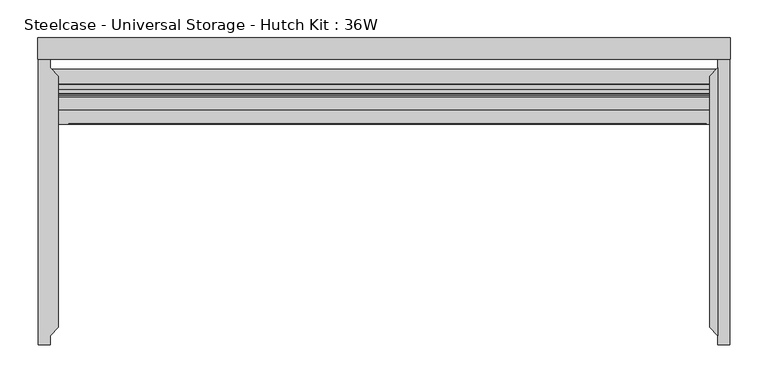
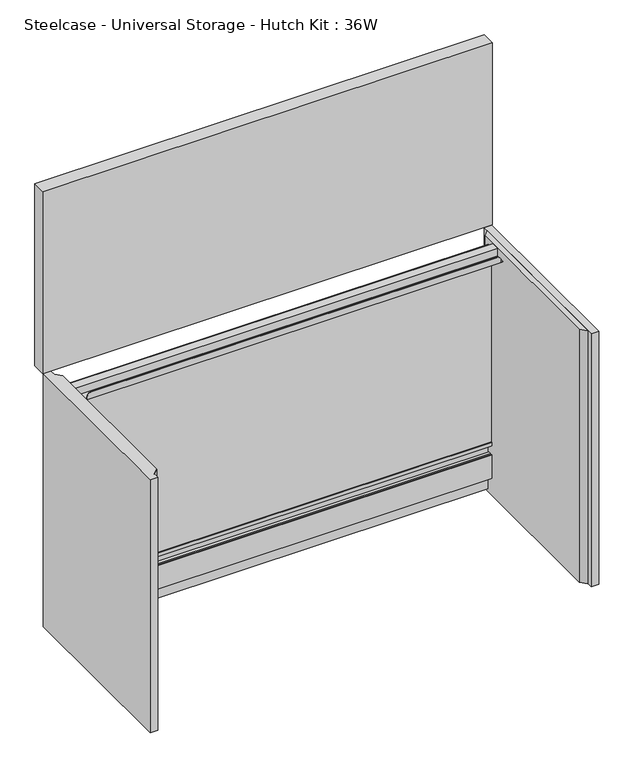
"""IFC4 building model written with IfcOpenShell, lengths in millimetres: furniture geometry, Steelcase - Universal Storage - Hutch Kit : 36W."""

from ifc_helpers import new_model, si_unit, frame, origin, place, context, project, spatial, polyline, circle_curve, outline, extrude, faceted_brep, source, transform, mapped, element, save
from ifc_brep_helpers import plane_surface, cylinder_surface, advanced_brep


def steelcase_universal_storage_hutch_kit_36w_d5d1bd64(model_context):
    return source(origin(), model_context, "Body", "SolidModel", [
        extrude(outline(polyline([(898.2202, -39.6494001), (898.2202, -393.4459972), (887.222, -382.447795), (887.222, -50.6476006), (898.2202, -39.6494001)])), frame((0.0, 0.0, 723.9), z_axis=(0.0, 0.0, 1.0), x_axis=(1.0, 0.0, 0.0)), (0.0, 0.0, 1.0), 544.8554),
        extrude(outline(polyline([(898.2202, -27.9400006), (913.5872, -27.9400006), (913.5872, -405.1553842), (898.2202, -405.1553842), (898.2202, -27.9400006)])), frame((0.0, 0.0, 723.9), z_axis=(0.0, 0.0, 1.0), x_axis=(1.0, 0.0, 0.0)), (0.0, 0.0, 1.0), 544.8554),
        extrude(outline(polyline([(16.1798, -405.1553842), (0.8128, -405.1553842), (0.8128, -27.9400006), (16.1798, -27.9400006), (16.1798, -39.6494001), (27.178, -50.6476006), (27.178, -382.447795), (16.1798, -393.4459972), (16.1798, -405.1553842)])), frame((0.0, 0.0, 723.9), z_axis=(0.0, 0.0, 1.0), x_axis=(1.0, 0.0, 0.0)), (0.0, 0.0, 1.0), 544.8554),
        advanced_brep(
        [(887.222, -78.4097988, 1250.975386), (887.222, -78.4097988, 1268.7554), (887.222, -94.7420005, 1268.7554), (887.222, -94.7420005, 1251.8898651), (887.222, -114.2492006, 1251.8898651), (887.222, -114.2492006, 1250.975386), (887.222, -93.8275986, 1250.975386), (887.222, -93.8275986, 1267.8410717), (887.222, -79.3242007, 1267.8410717), (887.222, -79.3242007, 1250.975386), (27.178, -78.4097988, 1250.975386), (27.178, -79.3242007, 1250.975386), (27.178, -79.3242007, 1267.8410717), (27.178, -93.8275986, 1267.8410717), (27.178, -93.8275986, 1250.975386), (27.178, -114.2492006, 1250.975386), (27.178, -114.2492006, 1251.8898651), (27.178, -94.7420005, 1251.8898651), (27.178, -94.7420005, 1268.7554), (27.178, -78.4097988, 1268.7554), (40.5892014, -114.2492006, 1251.8898651), (40.5892014, -113.3348006, 1251.8898651), (882.6809148, -113.3348006, 1251.8898651), (882.6809148, -114.2492006, 1251.8898651), (882.6809148, -114.2492006, 1256.0554636), (873.7909148, -114.2492006, 1264.9454636), (49.4792014, -114.2492006, 1264.9454636), (40.5892014, -114.2492006, 1256.0554636), (40.5892014, -113.3348006, 1256.0554636), (49.4792014, -113.3348006, 1264.9454636), (873.7909148, -113.3348006, 1264.9454636), (882.6809148, -113.3348006, 1256.0554636)],
        [
            (0, 1),
            (1, 2),
            (2, 3),
            (3, 4),
            (4, 5),
            (5, 6),
            (6, 7),
            (7, 8),
            (8, 9),
            (9, 0),
            (10, 11),
            (11, 12),
            (12, 13),
            (13, 14),
            (14, 15),
            (15, 16),
            (16, 17),
            (17, 18),
            (18, 19),
            (19, 10),
            (0, 10),
            (19, 1),
            (18, 2),
            (17, 3),
            (16, 20),
            (20, 21),
            (21, 22),
            (22, 23),
            (23, 4),
            (23, 24),
            (24, 25, circle_curve(frame((873.7909148, -114.2492006, 1256.0554636), z_axis=(0.0, -1.0, 0.0), x_axis=(1.0, 0.0, 0.0)), 8.89)),
            (25, 26),
            (26, 27, circle_curve(frame((49.4792014, -114.2492006, 1256.0554636), z_axis=(0.0, -1.0, 0.0), x_axis=(1.0, 0.0, 0.0)), 8.89)),
            (27, 20),
            (15, 5),
            (14, 6),
            (13, 7),
            (12, 8),
            (11, 9),
            (28, 29, circle_curve(frame((49.4792014, -113.3348006, 1256.0554636), z_axis=(0.0, 1.0, 0.0), x_axis=(1.0, 0.0, 0.0)), 8.89)),
            (29, 30),
            (30, 31, circle_curve(frame((873.7909148, -113.3348006, 1256.0554636), z_axis=(0.0, 1.0, 0.0), x_axis=(1.0, 0.0, 0.0)), 8.89)),
            (31, 22),
            (21, 28),
            (27, 28),
            (31, 24),
            (30, 25),
            (29, 26),
        ],
        [
            plane_surface(frame((887.222, -78.4097988, 1268.7554), z_axis=(1.0, 0.0, 0.0), x_axis=(0.0, 0.0, 1.0))),
            plane_surface(frame((27.178, -78.4097988, 1268.7554), z_axis=(-1.0, 0.0, 0.0), x_axis=(0.0, 0.0, -1.0))),
            plane_surface(frame((887.222, -78.4097988, 1250.975386), z_axis=(0.0, 1.0, 0.0), x_axis=(-1.0, 0.0, 0.0))),
            plane_surface(frame((887.222, -78.4097988, 1268.7554), z_axis=(0.0, 0.0, 1.0), x_axis=(-1.0, 0.0, 0.0))),
            plane_surface(frame((887.222, -94.7420005, 1268.7554), z_axis=(0.0, -1.0, 0.0), x_axis=(-1.0, 0.0, 0.0))),
            plane_surface(frame((887.222, -94.7420005, 1251.8898651), z_axis=(0.0, 0.0, 1.0), x_axis=(-1.0, 0.0, 0.0))),
            plane_surface(frame((887.222, -114.2492006, 1251.8898651), z_axis=(0.0, -1.0, 0.0), x_axis=(-1.0, 0.0, 0.0))),
            plane_surface(frame((887.222, -114.2492006, 1250.975386), z_axis=(0.0, 0.0, -1.0), x_axis=(-1.0, 0.0, 0.0))),
            plane_surface(frame((887.222, -93.8275986, 1250.975386), z_axis=(0.0, 1.0, 0.0), x_axis=(-1.0, 0.0, 0.0))),
            plane_surface(frame((887.222, -93.8275986, 1267.8410717), z_axis=(0.0, 0.0, -1.0), x_axis=(-1.0, 0.0, 0.0))),
            plane_surface(frame((887.222, -79.3242007, 1267.8410717), z_axis=(0.0, -1.0, 0.0), x_axis=(-1.0, 0.0, 0.0))),
            plane_surface(frame((887.222, -79.3242007, 1250.975386), z_axis=(0.0, 0.0, -1.0), x_axis=(-1.0, 0.0, 0.0))),
            plane_surface(frame((40.5892014, -113.3348006, 1251.8898651), z_axis=(0.0, 1.0, 0.0), x_axis=(0.0, 0.0, 1.0))),
            plane_surface(frame((40.5892014, -114.2492006, 1256.0554636), z_axis=(-1.0, 0.0, 0.0), x_axis=(0.0, 1.0, 0.0))),
            plane_surface(frame((882.6809148, -114.2492006, 1251.8898651), z_axis=(1.0, 0.0, 0.0), x_axis=(0.0, 1.0, 0.0))),
            cylinder_surface(frame((873.7909148, -113.3348006, 1256.0554636), z_axis=(0.0, -1.0, 0.0), x_axis=(1.0, 0.0, 0.0)), 8.89),
            plane_surface(frame((873.7909148, -114.2492006, 1264.9454636), z_axis=(0.0, 0.0, 1.0), x_axis=(0.0, 1.0, 0.0))),
            cylinder_surface(frame((49.4792014, -113.3348006, 1256.0554636), z_axis=(0.0, -1.0, 0.0), x_axis=(1.0, 0.0, 0.0)), 8.89),
        ],
        [
            (0, [[1, 2, 3, 4, 5, 6, 7, 8, 9, 10]]),
            (1, [[11, 12, 13, 14, 15, 16, 17, 18, 19, 20]]),
            (2, [[-1, 21, -20, 22]]),
            (3, [[-2, -22, -19, 23]]),
            (4, [[-3, -23, -18, 24]]),
            (5, [[-4, -24, -17, 25, 26, 27, 28, 29]]),
            (6, [[-5, -29, 30, 31, 32, 33, 34, -25, -16, 35]]),
            (7, [[-6, -35, -15, 36]]),
            (8, [[-7, -36, -14, 37]]),
            (9, [[-8, -37, -13, 38]]),
            (10, [[-9, -38, -12, 39]]),
            (11, [[-10, -39, -11, -21]]),
            (12, [[40, 41, 42, 43, -27, 44]]),
            (13, [[-34, 45, -44, -26]]),
            (14, [[-30, -28, -43, 46]]),
            (15, [[-31, -46, -42, 47]]),
            (16, [[-32, -47, -41, 48]]),
            (17, [[-33, -48, -40, -45]]),
        ],
    ),
        faceted_brep([(887.222, -60.7822002, 848.0044), (887.222, -60.7822002, 833.8820223), (887.222, -74.2695991, 833.8820223), (887.222, -74.2695991, 839.215999), (887.222, -75.7936022, 839.215999), (887.222, -75.7936022, 831.8500242), (887.222, -60.7652681, 831.8500242), (887.222, -60.7652681, 808.7613899), (887.222, -64.6684001, 808.7613899), (887.222, -64.6684001, 812.8000242), (887.222, -70.7136025, 812.8000242), (887.222, -70.7136025, 806.4499758), (887.222, -74.2695991, 806.4499758), (887.222, -74.2695991, 812.8000242), (887.222, -75.7936022, 812.8000242), (887.222, -75.7936022, 762.0), (887.222, -60.7652681, 762.0), (887.222, -60.7652681, 730.377), (887.222, -50.6476006, 730.377), (887.222, -50.6476006, 848.0044), (27.178, -60.7822002, 848.0044), (27.178, -50.6476006, 848.0044), (27.178, -50.6476006, 730.377), (27.178, -60.7652681, 730.377), (27.178, -60.7652681, 762.0), (27.178, -75.7936022, 762.0), (27.178, -75.7936022, 812.8000242), (27.178, -74.2695991, 812.8000242), (27.178, -74.2695991, 806.4499758), (27.178, -70.7136025, 806.4499758), (27.178, -70.7136025, 812.8000242), (27.178, -64.6684001, 812.8000242), (27.178, -64.6684001, 808.7613899), (27.178, -60.7652681, 808.7613899), (27.178, -60.7652681, 831.8500242), (27.178, -75.7936022, 831.8500242), (27.178, -75.7936022, 839.215999), (27.178, -74.2695991, 839.215999), (27.178, -74.2695991, 833.8820223), (27.178, -60.7822002, 833.8820223), (16.1798, -50.6476006, 730.377), (16.1798, -41.1480006, 730.377), (898.2202, -41.1480006, 730.377), (898.2202, -50.6476006, 730.377), (898.2202, -50.6476006, 848.0044), (898.2202, -41.1480006, 848.0044), (16.1798, -41.1480006, 848.0044), (16.1798, -50.6476006, 848.0044)], [[[0, 1, 2, 3, 4, 5, 6, 7, 8, 9, 10, 11, 12, 13, 14, 15, 16, 17, 18, 19]], [[20, 21, 22, 23, 24, 25, 26, 27, 28, 29, 30, 31, 32, 33, 34, 35, 36, 37, 38, 39]], [[1, 0, 20, 39]], [[2, 1, 39, 38]], [[3, 2, 38, 37]], [[4, 3, 37, 36]], [[5, 4, 36, 35]], [[6, 5, 35, 34]], [[7, 6, 34, 33]], [[8, 7, 33, 32]], [[9, 8, 32, 31]], [[10, 9, 31, 30]], [[11, 10, 30, 29]], [[12, 11, 29, 28]], [[13, 12, 28, 27]], [[14, 13, 27, 26]], [[15, 14, 26, 25]], [[16, 15, 25, 24]], [[17, 16, 24, 23]], [[18, 17, 23, 22, 40, 41, 42, 43]], [[0, 19, 44, 45, 46, 47, 21, 20]], [[44, 43, 42, 45]], [[47, 46, 41, 40]], [[43, 44, 19, 18]], [[47, 40, 22, 21]], [[45, 42, 41, 46]]]),
        extrude(outline(polyline([(887.222, -61.9759999), (887.222, -67.5258996), (27.178, -67.5258996), (27.178, -61.9759999), (887.222, -61.9759999)])), frame((0.0, 0.0, 833.8820223), z_axis=(0.0, 0.0, 1.0), x_axis=(1.0, 0.0, 0.0)), (0.0, 0.0, 1.0), 423.4941359),
        extrude(outline(polyline([(887.222, -67.5258996), (887.222, -73.0618558), (27.178, -73.0618558), (27.178, -67.5258996), (887.222, -67.5258996)])), frame((0.0, 0.0, 833.8820223), z_axis=(0.0, 0.0, 1.0), x_axis=(1.0, 0.0, 0.0)), (0.0, 0.0, 1.0), 423.4941359),
        extrude(outline(polyline([(914.4, 0.0), (914.4, -27.9400006), (0.0, -27.9400006), (0.0, 0.0), (914.4, 0.0)])), frame((0.0, 0.0, 1268.7554), z_axis=(0.0, 0.0, 1.0), x_axis=(1.0, 0.0, 0.0)), (0.0, 0.0, 1.0), 391.9220132),
    ])


if __name__ == "__main__":
    model = new_model("IFC4")
    model_context = context("Model", 3, world=origin())
    ifc_project = project(units=[si_unit("LENGTHUNIT", "METRE", prefix="MILLI")], contexts=[model_context])
    site = spatial("IfcSite", under=ifc_project)
    building = spatial("IfcBuilding", under=site)
    placement = place(None, origin())
    steelcase_universal_storage_hutch_kit_36w_shape = steelcase_universal_storage_hutch_kit_36w_d5d1bd64(model_context)
    element("IfcFurniture", 1, ObjectType="Steelcase - Universal Storage - Hutch Kit : 36W", at=placement, inside=building, context=model_context, shape_type="MappedRepresentation", body=[
        mapped(steelcase_universal_storage_hutch_kit_36w_shape, transform((0.0, 0.0, 0.0), x_axis=(1.0, 0.0, 0.0), y_axis=(0.0, 1.0, 0.0), z_axis=(0.0, 0.0, 1.0))),
    ])
    save(model, "model.ifc")
